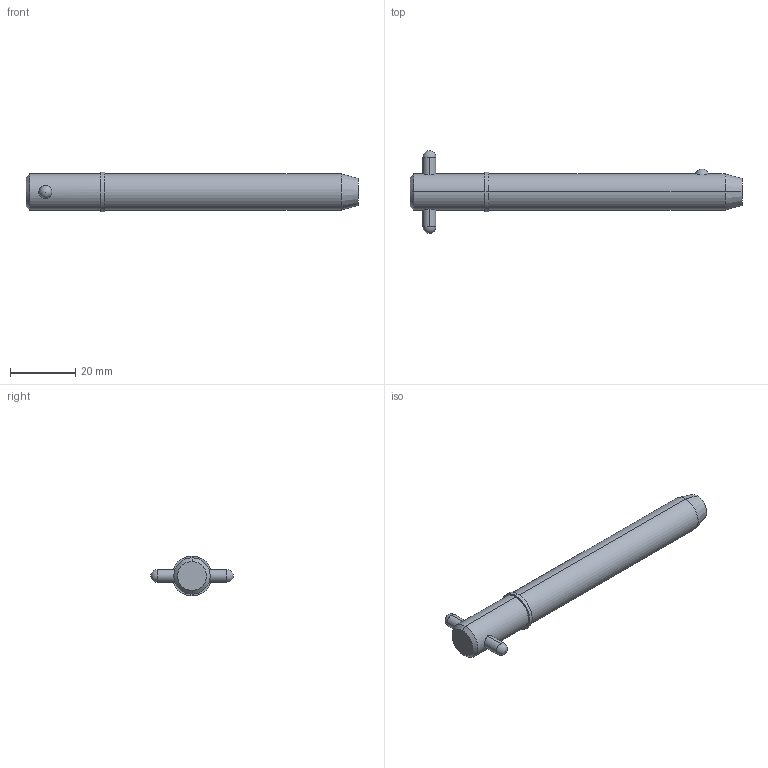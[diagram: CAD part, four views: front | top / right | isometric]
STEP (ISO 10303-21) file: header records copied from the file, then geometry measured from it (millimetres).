
FILE_DESCRIPTION (( 'STEP AP203' ), '1' );
FILE_NAME ('33018.W4325.step', '2024-11-19T17:13:06', ( '' ), ( '' ), 'SwSTEP 2.0', 'SolidWorks 2019', '' );
FILE_SCHEMA (( 'CONFIG_CONTROL_DESIGN' ));
Length unit declared in the file: millimetre
Products named in the file (3): Part2_33018.W4325; 33018.W4325; Part1_33018.W4325
Assembly tree (2 placements, depth 2):
  33018.W4325
    Part1_33018.W4325
    Part2_33018.W4325
Bounding box: 101.9 x 25.4 x 12.22 mm (x, y, z)
Volume: 9939.8 mm3; surface area: 4144.7 mm2
Topology: 2 solids, 2 shells, 22 faces, 47 edges, 30 vertices
Faces by surface type: cylinder 10, sphere 4, cone 4, plane 4
Entity records: 1031 total; most frequent: CARTESIAN_POINT 274, DIRECTION 110, ORIENTED_EDGE 82, AXIS2_PLACEMENT_3D 48, EDGE_CURVE 41, EDGE_LOOP 27, VERTEX_POINT 26, PERSON_AND_ORGANIZATION 26
